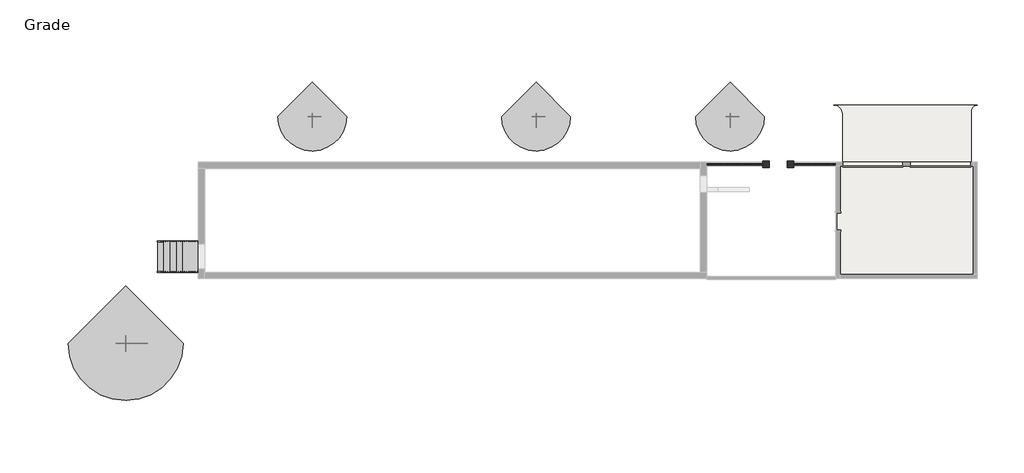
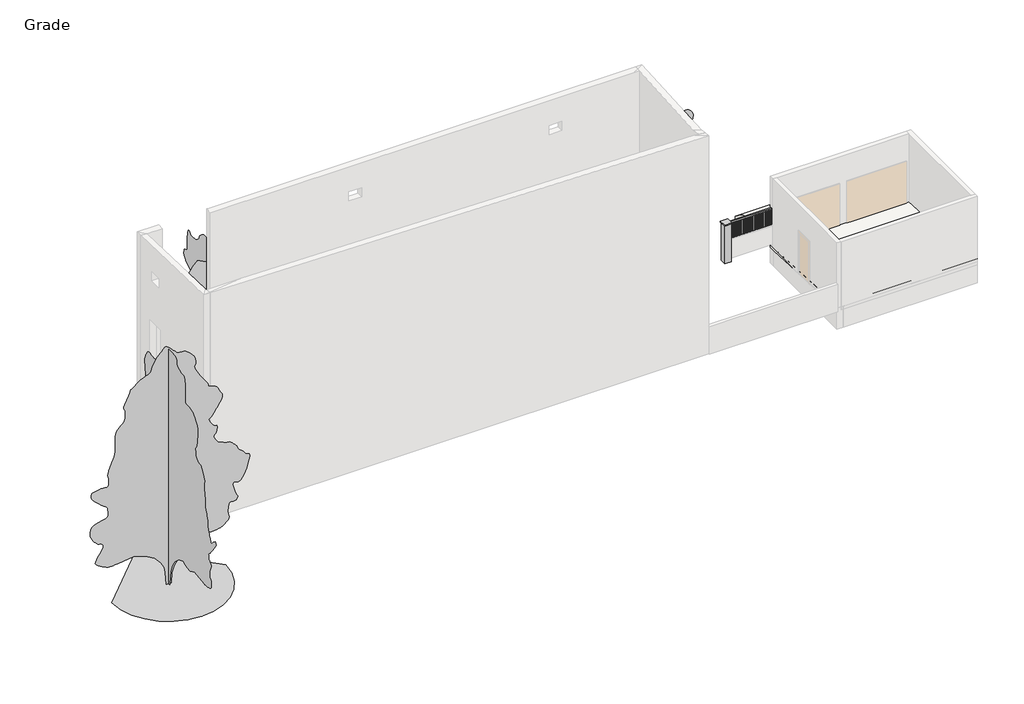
# One storey, part 2 of 2: 4 geographic elements, 4 railings, 2 columns, 2 slabs, 1 proxy, 1 stair flight.
"""IFC4 building model written with IfcOpenShell, lengths in millimetres."""

from ifc_helpers import new_model, si_unit, frame, origin, place, context, project, spatial, polyline, ellipse_curve, outline, extrude, faceted_brep, transform, mapped, element, save
from ifc_brep_helpers import plane_surface, revolved_surface, advanced_brep
from components import stair_panel_stair_panel_f019767a, rpc_tree_deciduous_honey_locust_25_cc46a1f1, rpc_tree_deciduous_lombardy_poplar_40_01077960, wooden_fence_5f6a634e, wooden_fence_12f1ab6c

model = new_model("IFC4")

# Units and contexts
model_context = context("Model", 3, world=origin())
ifc_project = project(units=[si_unit("LENGTHUNIT", "METRE", prefix="MILLI")], contexts=[model_context])

# Site, building, storey
site = spatial("IfcSite", under=ifc_project)
building = spatial("IfcBuilding", under=site)
storey = spatial("IfcBuildingStorey", under=building, Name="Grade", Elevation=-1117.6)

# Proxy
placement = place(None, origin())
stair_panel_stair_panel_shape = stair_panel_stair_panel_f019767a(model_context)
element("IfcBuildingElementProxy", 1, Name="Stair panel : Stair panel", ObjectType="Stair panel : Stair panel", at=placement, inside=storey, context=model_context, shape_type="MappedRepresentation", body=[
    mapped(stair_panel_stair_panel_shape, transform((0.0, 0.0, 0.0), x_axis=(1.0, 0.0, 0.0), y_axis=(0.0, 1.0, 0.0), z_axis=(0.0, 0.0, 1.0))),
])

# Columns
element("IfcColumn", 2, ObjectType="Pillar : Pillar", at=placement, inside=storey, context=model_context, shape_type="SweptSolid", body=[
    extrude(outline(polyline([(7176.9464708, 3586.1935985), (7176.9464708, 3230.5935985), (6821.3464708, 3230.5935985), (6821.3464708, 3586.1935985), (7176.9464708, 3586.1935985)])), frame((0.0, 0.0, 835.025), z_axis=(0.0, 0.0, 1.0), x_axis=(1.0, 0.0, 0.0)), (0.0, 0.0, 1.0), 50.8),
    extrude(outline(polyline([(7151.5464708, 3560.7935985), (7151.5464708, 3255.9935985), (6846.7464708, 3255.9935985), (6846.7464708, 3560.7935985), (7151.5464708, 3560.7935985)])), frame((0.0, 0.0, -1117.6), z_axis=(0.0, 0.0, 1.0), x_axis=(1.0, 0.0, 0.0)), (0.0, 0.0, 1.0), 1952.625),
])
element("IfcColumn", 3, ObjectType="Pillar : Pillar", at=placement, inside=storey, context=model_context, shape_type="SweptSolid", body=[
    extrude(outline(polyline([(8353.2839708, 3586.1935985), (8353.2839708, 3230.5935985), (7997.6839708, 3230.5935985), (7997.6839708, 3586.1935985), (8353.2839708, 3586.1935985)])), frame((0.0, 0.0, 835.025), z_axis=(0.0, 0.0, 1.0), x_axis=(1.0, 0.0, 0.0)), (0.0, 0.0, 1.0), 50.8),
    extrude(outline(polyline([(8327.8839708, 3560.7935985), (8327.8839708, 3255.9935985), (8023.0839708, 3255.9935985), (8023.0839708, 3560.7935985), (8327.8839708, 3560.7935985)])), frame((0.0, 0.0, -1117.6), z_axis=(0.0, 0.0, 1.0), x_axis=(1.0, 0.0, 0.0)), (0.0, 0.0, 1.0), 1952.625),
])

# Geographic elements
rpc_tree_deciduous_honey_locust_25_shape = rpc_tree_deciduous_honey_locust_25_cc46a1f1(model_context)
element("IfcGeographicElement", 4, ObjectType="RPC Tree - Deciduous : Honey Locust - 25'", at=placement, inside=storey, context=model_context, shape_type="MappedRepresentation", body=[
    mapped(rpc_tree_deciduous_honey_locust_25_shape, transform((5271.3310905, 5709.9205522, -1219.2), x_axis=(1.0, 0.0, 0.0), y_axis=(0.0, 1.0, 0.0), z_axis=(0.0, 0.0, 1.0))),
])
element("IfcGeographicElement", 5, ObjectType="RPC Tree - Deciduous : Honey Locust - 25'", at=placement, inside=storey, context=model_context, shape_type="MappedRepresentation", body=[
    mapped(rpc_tree_deciduous_honey_locust_25_shape, transform((-4067.9452542, 5709.9205522, -1219.2), x_axis=(1.0, 0.0, 0.0), y_axis=(0.0, 1.0, 0.0), z_axis=(0.0, 0.0, 1.0))),
])
element("IfcGeographicElement", 6, ObjectType="RPC Tree - Deciduous : Honey Locust - 25'", at=placement, inside=storey, context=model_context, shape_type="MappedRepresentation", body=[
    mapped(rpc_tree_deciduous_honey_locust_25_shape, transform((-14845.4689095, 5709.9205522, -1219.2), x_axis=(1.0, 0.0, 0.0), y_axis=(0.0, 1.0, 0.0), z_axis=(0.0, 0.0, 1.0))),
])
rpc_tree_deciduous_lombardy_poplar_40_shape = rpc_tree_deciduous_lombardy_poplar_40_01077960(model_context)
element("IfcGeographicElement", 7, ObjectType="RPC Tree - Deciduous : Lombardy Poplar - 40'", at=placement, inside=storey, context=model_context, shape_type="MappedRepresentation", body=[
    mapped(rpc_tree_deciduous_lombardy_poplar_40_shape, transform((-23823.7535292, -5214.9064015, -1219.2), x_axis=(1.0, 0.0, 0.0), y_axis=(0.0, 1.0, 0.0), z_axis=(0.0, 0.0, 1.0))),
])

# Railings
element("IfcRailing", 8, ObjectType="Handrail - Rectangular", at=placement, inside=storey, context=model_context, shape_type="SolidModel", body=[
    faceted_brep([(-22304.5160292, -1757.3314015, -16.9333333), (-22304.5160292, -1757.3314015, -76.4681763), (-22304.5160292, -1808.1314015, -76.4681763), (-22304.5160292, -1808.1314015, -16.9333333), (-20780.5160292, -1757.3314015, 914.4), (-20766.2226497, -1757.3314015, 863.6), (-20766.2226497, -1808.1314015, 863.6), (-20780.5160292, -1808.1314015, 914.4), (-20318.5535292, -1757.3314015, 914.4), (-20318.5535292, -1808.1314015, 914.4), (-20318.5535292, -1808.1314015, 863.6), (-20318.5535292, -1757.3314015, 863.6)], [[[0, 1, 2, 3]], [[1, 0, 4, 5]], [[2, 1, 5, 6]], [[3, 2, 6, 7]], [[0, 3, 7, 4]], [[8, 9, 10, 11]], [[5, 4, 8, 11]], [[6, 5, 11, 10]], [[7, 6, 10, 9]], [[4, 7, 9, 8]]]),
    extrude(outline(polyline([(-20383.6410292, -1792.2564015), (-20383.6410292, -1773.2064015), (-20364.5910292, -1773.2064015), (-20364.5910292, -1792.2564015), (-20383.6410292, -1792.2564015)])), frame((0.0, 0.0, -186.2666667), z_axis=(0.0, 0.0, 1.0), x_axis=(1.0, 0.0, 0.0)), (0.0, 0.0, 1.0), 1049.8666667),
    extrude(outline(polyline([(-20485.2410292, -1792.2564015), (-20485.2410292, -1773.2064015), (-20466.1910292, -1773.2064015), (-20466.1910292, -1792.2564015), (-20485.2410292, -1792.2564015)])), frame((0.0, 0.0, -186.2666667), z_axis=(0.0, 0.0, 1.0), x_axis=(1.0, 0.0, 0.0)), (0.0, 0.0, 1.0), 1049.8666667),
    extrude(outline(polyline([(-20586.8410292, -1792.2564015), (-20586.8410292, -1773.2064015), (-20567.7910292, -1773.2064015), (-20567.7910292, -1792.2564015), (-20586.8410292, -1792.2564015)])), frame((0.0, 0.0, -186.2666667), z_axis=(0.0, 0.0, 1.0), x_axis=(1.0, 0.0, 0.0)), (0.0, 0.0, 1.0), 1049.8666667),
    extrude(outline(polyline([(-20688.4410292, -1792.2564015), (-20688.4410292, -1773.2064015), (-20669.3910292, -1773.2064015), (-20669.3910292, -1792.2564015), (-20688.4410292, -1792.2564015)])), frame((0.0, 0.0, -186.2666667), z_axis=(0.0, 0.0, 1.0), x_axis=(1.0, 0.0, 0.0)), (0.0, 0.0, 1.0), 1049.8666667),
    extrude(outline(polyline([(798.5971014, -20872.5910292), (786.9554348, -20891.6410292), (-186.2666667, -20891.6410292), (-186.2666667, -20872.5910292), (798.5971014, -20872.5910292)])), frame((0.0, -1792.2564015, 0.0), z_axis=(0.0, 1.0, 0.0), x_axis=(0.0, 0.0, 1.0)), (0.0, 0.0, 1.0), 19.05),
    extrude(outline(polyline([(736.5082126, -20974.1910292), (724.8665459, -20993.2410292), (-186.2666667, -20993.2410292), (-186.2666667, -20974.1910292), (736.5082126, -20974.1910292)])), frame((0.0, -1792.2564015, 0.0), z_axis=(0.0, 1.0, 0.0), x_axis=(0.0, 0.0, 1.0)), (0.0, 0.0, 1.0), 19.05),
    extrude(outline(polyline([(674.4193237, -21075.7910292), (662.777657, -21094.8410292), (-186.2666667, -21094.8410292), (-186.2666667, -21075.7910292), (674.4193237, -21075.7910292)])), frame((0.0, -1792.2564015, 0.0), z_axis=(0.0, 1.0, 0.0), x_axis=(0.0, 0.0, 1.0)), (0.0, 0.0, 1.0), 19.05),
    extrude(outline(polyline([(612.3304348, -21177.3910292), (600.6887681, -21196.4410292), (-372.5333333, -21196.4410292), (-372.5333333, -21177.3910292), (612.3304348, -21177.3910292)])), frame((0.0, -1792.2564015, 0.0), z_axis=(0.0, 1.0, 0.0), x_axis=(0.0, 0.0, 1.0)), (0.0, 0.0, 1.0), 19.05),
    extrude(outline(polyline([(550.2415459, -21278.9910292), (538.5998792, -21298.0410292), (-372.5333333, -21298.0410292), (-372.5333333, -21278.9910292), (550.2415459, -21278.9910292)])), frame((0.0, -1792.2564015, 0.0), z_axis=(0.0, 1.0, 0.0), x_axis=(0.0, 0.0, 1.0)), (0.0, 0.0, 1.0), 19.05),
    extrude(outline(polyline([(488.152657, -21380.5910292), (476.5109903, -21399.6410292), (-372.5333333, -21399.6410292), (-372.5333333, -21380.5910292), (488.152657, -21380.5910292)])), frame((0.0, -1792.2564015, 0.0), z_axis=(0.0, 1.0, 0.0), x_axis=(0.0, 0.0, 1.0)), (0.0, 0.0, 1.0), 19.05),
    extrude(outline(polyline([(426.0637681, -21482.1910292), (414.4221014, -21501.2410292), (-558.8, -21501.2410292), (-558.8, -21482.1910292), (426.0637681, -21482.1910292)])), frame((0.0, -1792.2564015, 0.0), z_axis=(0.0, 1.0, 0.0), x_axis=(0.0, 0.0, 1.0)), (0.0, 0.0, 1.0), 19.05),
    extrude(outline(polyline([(363.9748792, -21583.7910292), (352.3332126, -21602.8410292), (-558.8, -21602.8410292), (-558.8, -21583.7910292), (363.9748792, -21583.7910292)])), frame((0.0, -1792.2564015, 0.0), z_axis=(0.0, 1.0, 0.0), x_axis=(0.0, 0.0, 1.0)), (0.0, 0.0, 1.0), 19.05),
    extrude(outline(polyline([(301.8859903, -21685.3910292), (290.2443237, -21704.4410292), (-558.8, -21704.4410292), (-558.8, -21685.3910292), (301.8859903, -21685.3910292)])), frame((0.0, -1792.2564015, 0.0), z_axis=(0.0, 1.0, 0.0), x_axis=(0.0, 0.0, 1.0)), (0.0, 0.0, 1.0), 19.05),
    extrude(outline(polyline([(239.7971014, -21786.9910292), (228.1554348, -21806.0410292), (-745.0666667, -21806.0410292), (-745.0666667, -21786.9910292), (239.7971014, -21786.9910292)])), frame((0.0, -1792.2564015, 0.0), z_axis=(0.0, 1.0, 0.0), x_axis=(0.0, 0.0, 1.0)), (0.0, 0.0, 1.0), 19.05),
    extrude(outline(polyline([(177.7082126, -21888.5910292), (166.0665459, -21907.6410292), (-745.0666667, -21907.6410292), (-745.0666667, -21888.5910292), (177.7082126, -21888.5910292)])), frame((0.0, -1792.2564015, 0.0), z_axis=(0.0, 1.0, 0.0), x_axis=(0.0, 0.0, 1.0)), (0.0, 0.0, 1.0), 19.05),
    extrude(outline(polyline([(115.6193237, -21990.1910292), (103.977657, -22009.2410292), (-745.0666667, -22009.2410292), (-745.0666667, -21990.1910292), (115.6193237, -21990.1910292)])), frame((0.0, -1792.2564015, 0.0), z_axis=(0.0, 1.0, 0.0), x_axis=(0.0, 0.0, 1.0)), (0.0, 0.0, 1.0), 19.05),
    extrude(outline(polyline([(53.5304348, -22091.7910292), (41.8887681, -22110.8410292), (-931.3333333, -22110.8410292), (-931.3333333, -22091.7910292), (53.5304348, -22091.7910292)])), frame((0.0, -1792.2564015, 0.0), z_axis=(0.0, 1.0, 0.0), x_axis=(0.0, 0.0, 1.0)), (0.0, 0.0, 1.0), 19.05),
    extrude(outline(polyline([(-8.5584541, -22193.3910292), (-20.2001208, -22212.4410292), (-931.3333333, -22212.4410292), (-931.3333333, -22193.3910292), (-8.5584541, -22193.3910292)])), frame((0.0, -1792.2564015, 0.0), z_axis=(0.0, 1.0, 0.0), x_axis=(0.0, 0.0, 1.0)), (0.0, 0.0, 1.0), 19.05),
    extrude(outline(polyline([(860.6859903, -20770.9910292), (849.0443237, -20790.0410292), (-186.2666667, -20790.0410292), (-186.2666667, -20770.9910292), (860.6859903, -20770.9910292)])), frame((0.0, -1792.2564015, 0.0), z_axis=(0.0, 1.0, 0.0), x_axis=(0.0, 0.0, 1.0)), (0.0, 0.0, 1.0), 19.05),
    extrude(outline(polyline([(-20337.6035292, -1792.2564015), (-20337.6035292, -1773.2064015), (-20318.5535292, -1773.2064015), (-20318.5535292, -1792.2564015), (-20337.6035292, -1792.2564015)])), frame((0.0, 0.0, -186.2666667), z_axis=(0.0, 0.0, 1.0), x_axis=(1.0, 0.0, 0.0)), (0.0, 0.0, 1.0), 1049.8666667),
    extrude(outline(polyline([(-64.8265097, -22285.4660292), (-76.4681763, -22304.5160292), (-931.3333333, -22304.5160292), (-931.3333333, -22285.4660292), (-64.8265097, -22285.4660292)])), frame((0.0, -1792.2564015, 0.0), z_axis=(0.0, 1.0, 0.0), x_axis=(0.0, 0.0, 1.0)), (0.0, 0.0, 1.0), 19.05),
])
element("IfcRailing", 9, ObjectType="Handrail - Rectangular", at=placement, inside=storey, context=model_context, shape_type="SolidModel", body=[
    faceted_brep([(-22304.5160292, -284.1314015, -16.9333333), (-22304.5160292, -284.1314015, -76.4681763), (-22304.5160292, -334.9314015, -76.4681763), (-22304.5160292, -334.9314015, -16.9333333), (-20780.5160292, -284.1314015, 914.4), (-20766.2226497, -284.1314015, 863.6), (-20766.2226497, -334.9314015, 863.6), (-20780.5160292, -334.9314015, 914.4), (-20318.5535292, -284.1314015, 914.4), (-20318.5535292, -334.9314015, 914.4), (-20318.5535292, -334.9314015, 863.6), (-20318.5535292, -284.1314015, 863.6)], [[[0, 1, 2, 3]], [[1, 0, 4, 5]], [[2, 1, 5, 6]], [[3, 2, 6, 7]], [[0, 3, 7, 4]], [[8, 9, 10, 11]], [[5, 4, 8, 11]], [[6, 5, 11, 10]], [[7, 6, 10, 9]], [[4, 7, 9, 8]]]),
    extrude(outline(polyline([(-20383.6410292, -300.0064015), (-20364.5910292, -300.0064015), (-20364.5910292, -319.0564015), (-20383.6410292, -319.0564015), (-20383.6410292, -300.0064015)])), frame((0.0, 0.0, -186.2666667), z_axis=(0.0, 0.0, 1.0), x_axis=(1.0, 0.0, 0.0)), (0.0, 0.0, 1.0), 1049.8666667),
    extrude(outline(polyline([(-20485.2410292, -300.0064015), (-20466.1910292, -300.0064015), (-20466.1910292, -319.0564015), (-20485.2410292, -319.0564015), (-20485.2410292, -300.0064015)])), frame((0.0, 0.0, -186.2666667), z_axis=(0.0, 0.0, 1.0), x_axis=(1.0, 0.0, 0.0)), (0.0, 0.0, 1.0), 1049.8666667),
    extrude(outline(polyline([(-20586.8410292, -300.0064015), (-20567.7910292, -300.0064015), (-20567.7910292, -319.0564015), (-20586.8410292, -319.0564015), (-20586.8410292, -300.0064015)])), frame((0.0, 0.0, -186.2666667), z_axis=(0.0, 0.0, 1.0), x_axis=(1.0, 0.0, 0.0)), (0.0, 0.0, 1.0), 1049.8666667),
    extrude(outline(polyline([(-20688.4410292, -300.0064015), (-20669.3910292, -300.0064015), (-20669.3910292, -319.0564015), (-20688.4410292, -319.0564015), (-20688.4410292, -300.0064015)])), frame((0.0, 0.0, -186.2666667), z_axis=(0.0, 0.0, 1.0), x_axis=(1.0, 0.0, 0.0)), (0.0, 0.0, 1.0), 1049.8666667),
    extrude(outline(polyline([(786.9554348, -20891.6410292), (-186.2666667, -20891.6410292), (-186.2666667, -20872.5910292), (798.5971014, -20872.5910292), (786.9554348, -20891.6410292)])), frame((0.0, -319.0564015, 0.0), z_axis=(0.0, 1.0, 0.0), x_axis=(0.0, 0.0, 1.0)), (0.0, 0.0, 1.0), 19.05),
    extrude(outline(polyline([(724.8665459, -20993.2410292), (-186.2666667, -20993.2410292), (-186.2666667, -20974.1910292), (736.5082126, -20974.1910292), (724.8665459, -20993.2410292)])), frame((0.0, -319.0564015, 0.0), z_axis=(0.0, 1.0, 0.0), x_axis=(0.0, 0.0, 1.0)), (0.0, 0.0, 1.0), 19.05),
    extrude(outline(polyline([(662.777657, -21094.8410292), (-186.2666667, -21094.8410292), (-186.2666667, -21075.7910292), (674.4193237, -21075.7910292), (662.777657, -21094.8410292)])), frame((0.0, -319.0564015, 0.0), z_axis=(0.0, 1.0, 0.0), x_axis=(0.0, 0.0, 1.0)), (0.0, 0.0, 1.0), 19.05),
    extrude(outline(polyline([(600.6887681, -21196.4410292), (-372.5333333, -21196.4410292), (-372.5333333, -21177.3910292), (612.3304348, -21177.3910292), (600.6887681, -21196.4410292)])), frame((0.0, -319.0564015, 0.0), z_axis=(0.0, 1.0, 0.0), x_axis=(0.0, 0.0, 1.0)), (0.0, 0.0, 1.0), 19.05),
    extrude(outline(polyline([(538.5998792, -21298.0410292), (-372.5333333, -21298.0410292), (-372.5333333, -21278.9910292), (550.2415459, -21278.9910292), (538.5998792, -21298.0410292)])), frame((0.0, -319.0564015, 0.0), z_axis=(0.0, 1.0, 0.0), x_axis=(0.0, 0.0, 1.0)), (0.0, 0.0, 1.0), 19.05),
    extrude(outline(polyline([(476.5109903, -21399.6410292), (-372.5333333, -21399.6410292), (-372.5333333, -21380.5910292), (488.152657, -21380.5910292), (476.5109903, -21399.6410292)])), frame((0.0, -319.0564015, 0.0), z_axis=(0.0, 1.0, 0.0), x_axis=(0.0, 0.0, 1.0)), (0.0, 0.0, 1.0), 19.05),
    extrude(outline(polyline([(414.4221014, -21501.2410292), (-558.8, -21501.2410292), (-558.8, -21482.1910292), (426.0637681, -21482.1910292), (414.4221014, -21501.2410292)])), frame((0.0, -319.0564015, 0.0), z_axis=(0.0, 1.0, 0.0), x_axis=(0.0, 0.0, 1.0)), (0.0, 0.0, 1.0), 19.05),
    extrude(outline(polyline([(352.3332126, -21602.8410292), (-558.8, -21602.8410292), (-558.8, -21583.7910292), (363.9748792, -21583.7910292), (352.3332126, -21602.8410292)])), frame((0.0, -319.0564015, 0.0), z_axis=(0.0, 1.0, 0.0), x_axis=(0.0, 0.0, 1.0)), (0.0, 0.0, 1.0), 19.05),
    extrude(outline(polyline([(290.2443237, -21704.4410292), (-558.8, -21704.4410292), (-558.8, -21685.3910292), (301.8859903, -21685.3910292), (290.2443237, -21704.4410292)])), frame((0.0, -319.0564015, 0.0), z_axis=(0.0, 1.0, 0.0), x_axis=(0.0, 0.0, 1.0)), (0.0, 0.0, 1.0), 19.05),
    extrude(outline(polyline([(228.1554348, -21806.0410292), (-745.0666667, -21806.0410292), (-745.0666667, -21786.9910292), (239.7971014, -21786.9910292), (228.1554348, -21806.0410292)])), frame((0.0, -319.0564015, 0.0), z_axis=(0.0, 1.0, 0.0), x_axis=(0.0, 0.0, 1.0)), (0.0, 0.0, 1.0), 19.05),
    extrude(outline(polyline([(166.0665459, -21907.6410292), (-745.0666667, -21907.6410292), (-745.0666667, -21888.5910292), (177.7082126, -21888.5910292), (166.0665459, -21907.6410292)])), frame((0.0, -319.0564015, 0.0), z_axis=(0.0, 1.0, 0.0), x_axis=(0.0, 0.0, 1.0)), (0.0, 0.0, 1.0), 19.05),
    extrude(outline(polyline([(103.977657, -22009.2410292), (-745.0666667, -22009.2410292), (-745.0666667, -21990.1910292), (115.6193237, -21990.1910292), (103.977657, -22009.2410292)])), frame((0.0, -319.0564015, 0.0), z_axis=(0.0, 1.0, 0.0), x_axis=(0.0, 0.0, 1.0)), (0.0, 0.0, 1.0), 19.05),
    extrude(outline(polyline([(41.8887681, -22110.8410292), (-931.3333333, -22110.8410292), (-931.3333333, -22091.7910292), (53.5304348, -22091.7910292), (41.8887681, -22110.8410292)])), frame((0.0, -319.0564015, 0.0), z_axis=(0.0, 1.0, 0.0), x_axis=(0.0, 0.0, 1.0)), (0.0, 0.0, 1.0), 19.05),
    extrude(outline(polyline([(-20.2001208, -22212.4410292), (-931.3333333, -22212.4410292), (-931.3333333, -22193.3910292), (-8.5584541, -22193.3910292), (-20.2001208, -22212.4410292)])), frame((0.0, -319.0564015, 0.0), z_axis=(0.0, 1.0, 0.0), x_axis=(0.0, 0.0, 1.0)), (0.0, 0.0, 1.0), 19.05),
    extrude(outline(polyline([(849.0443237, -20790.0410292), (-186.2666667, -20790.0410292), (-186.2666667, -20770.9910292), (860.6859903, -20770.9910292), (849.0443237, -20790.0410292)])), frame((0.0, -319.0564015, 0.0), z_axis=(0.0, 1.0, 0.0), x_axis=(0.0, 0.0, 1.0)), (0.0, 0.0, 1.0), 19.05),
    extrude(outline(polyline([(-20337.6035292, -300.0064015), (-20318.5535292, -300.0064015), (-20318.5535292, -319.0564015), (-20337.6035292, -319.0564015), (-20337.6035292, -300.0064015)])), frame((0.0, 0.0, -186.2666667), z_axis=(0.0, 0.0, 1.0), x_axis=(1.0, 0.0, 0.0)), (0.0, 0.0, 1.0), 1049.8666667),
    extrude(outline(polyline([(-76.4681763, -22304.5160292), (-931.3333333, -22304.5160292), (-931.3333333, -22285.4660292), (-64.8265097, -22285.4660292), (-76.4681763, -22304.5160292)])), frame((0.0, -319.0564015, 0.0), z_axis=(0.0, 1.0, 0.0), x_axis=(0.0, 0.0, 1.0)), (0.0, 0.0, 1.0), 19.05),
])
wooden_fence_shape = wooden_fence_5f6a634e(model_context)
element("IfcRailing", 10, ObjectType="Wooden Fence", at=placement, inside=storey, context=model_context, shape_type="MappedRepresentation", body=[
    mapped(wooden_fence_shape, transform((0.0, 0.0, 0.0), x_axis=(1.0, 0.0, 0.0), y_axis=(0.0, 1.0, 0.0), z_axis=(0.0, 0.0, 1.0))),
])
wooden_fence_2_shape = wooden_fence_12f1ab6c(model_context)
element("IfcRailing", 11, ObjectType="Wooden Fence", at=placement, inside=storey, context=model_context, shape_type="MappedRepresentation", body=[
    mapped(wooden_fence_2_shape, transform((0.0, 0.0, 0.0), x_axis=(1.0, 0.0, 0.0), y_axis=(0.0, 1.0, 0.0), z_axis=(0.0, 0.0, 1.0))),
])

# Slabs
element("IfcSlab", 12, ObjectType="Generic - 6\"", at=placement, inside=storey, context=model_context, shape_type="SweptSolid", body=[
    extrude(outline(polyline([(3509.9935985, -1270.2416652), (-2103.4064015, -953.9937778), (-2103.4064015, -801.3521127), (3509.9935985, -1117.6), (3509.9935985, -1270.2416652)])), frame((10364.6464708, 0.0, 0.0), z_axis=(1.0, 0.0, 0.0), x_axis=(0.0, 1.0, 0.0)), (0.0, 0.0, 1.0), 6807.2),
])
element("IfcSlab", 13, ObjectType="Generic - 6\"", at=placement, inside=storey, context=model_context, shape_type="AdvancedBrep", body=[
    advanced_brep(
    [(17181.3714708, 6253.1935985, -1422.6037283), (16876.5714708, 5948.3935985, -1406.838211), (16876.5714708, 3306.7935985, -1270.2037283), (10688.4964708, 3306.7935985, -1270.2037283), (10688.4964708, 5821.3935985, -1400.2692455), (10256.6964708, 6253.1935985, -1422.6037283), (17181.3714708, 6253.1935985, -1270.0), (10256.6964708, 6253.1935985, -1270.0), (10688.4964708, 5821.3935985, -1247.6655172), (10688.4964708, 3306.7935985, -1117.6), (16876.5714708, 3306.7935985, -1117.6), (16876.5714708, 5948.3935985, -1254.2344828)],
    [
        (0, 1, ellipse_curve(frame((17181.3714708, 5948.3935985, -1406.838211), z_axis=(0.0, 0.05165508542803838, 0.9986649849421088), x_axis=(0.0, -0.9986649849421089, 0.0516550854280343)), 305.2074566, 304.8)),
        (1, 2),
        (2, 3),
        (3, 4),
        (4, 5, ellipse_curve(frame((10256.6964708, 5821.3935985, -1400.2692455), z_axis=(0.0, 0.05165508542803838, 0.9986649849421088), x_axis=(0.0, -0.9986649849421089, 0.0516550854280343)), 432.3772301, 431.8)),
        (5, 0),
        (6, 7),
        (7, 8, ellipse_curve(frame((10256.6964708, 5821.3935985, -1247.6655172), z_axis=(0.0, -0.05165508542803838, -0.9986649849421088), x_axis=(0.0, -0.9986649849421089, 0.0516550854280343)), 432.3772301, 431.8)),
        (8, 9),
        (9, 10),
        (10, 11),
        (11, 6, ellipse_curve(frame((17181.3714708, 5948.3935985, -1254.2344828), z_axis=(0.0, -0.05165508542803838, -0.9986649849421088), x_axis=(0.0, -0.9986649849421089, 0.0516550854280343)), 305.2074566, 304.8)),
        (0, 6),
        (11, 1),
        (10, 2),
        (9, 3),
        (8, 4),
        (7, 5),
    ],
    [
        plane_surface(frame((13400.7402208, 3306.7935985, -1270.2037283), z_axis=(0.0, -0.05165508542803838, -0.9986649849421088), x_axis=(0.0, 0.9986649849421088, -0.05165508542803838))),
        plane_surface(frame((13400.7402208, 3306.7935985, -1117.6), z_axis=(0.0, 0.05165508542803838, 0.9986649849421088), x_axis=(0.0, -0.9986649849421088, 0.05165508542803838))),
        revolved_surface(polyline([(17486.1714708, 5948.3935985, -1238.468965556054), (17486.1714708, 5948.3935985, -1422.6037283)]), (17181.3714708, 5948.3935985, -1117.6), (0.0, 0.0, 1.0)),
        plane_surface(frame((16876.5714708, 5948.3935985, -1406.838211), z_axis=(1.0, 0.0, 0.0), x_axis=(0.0, 0.0, 1.0))),
        plane_surface(frame((16876.5714708, 3306.7935985, -1270.2037283), z_axis=(0.0, -1.0, 0.0), x_axis=(0.0, 0.0, 1.0))),
        plane_surface(frame((10688.4964708, 3306.7935985, -1270.2037283), z_axis=(-1.0, 0.0, 0.0), x_axis=(0.0, 0.0, 1.0))),
        revolved_surface(polyline([(10688.496470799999, 5821.3935985, -1225.3310344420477), (10688.496470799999, 5821.3935985, -1422.6037283)]), (10256.6964708, 5821.3935985, -1117.6), (0.0, 0.0, 1.0)),
        plane_surface(frame((10256.6964708, 6253.1935985, -1422.6037283), z_axis=(0.0, 1.0, 0.0), x_axis=(0.0, 0.0, 1.0))),
    ],
    [
        (0, [[1, 2, 3, 4, 5, 6]]),
        (1, [[7, 8, 9, 10, 11, 12]]),
        (2, [[-1, 13, -12, 14]]),
        (3, [[-2, -14, -11, 15]]),
        (4, [[-3, -15, -10, 16]]),
        (5, [[-4, -16, -9, 17]]),
        (6, [[-5, -17, -8, 18]]),
        (7, [[-6, -18, -7, -13]]),
    ],
),
])

# Stair flight
element("IfcStairFlight", 14, ObjectType="3/4\" Nosing (1)", at=placement, inside=storey, context=model_context, shape_type="Brep", body=[
    faceted_brep([(-21980.6660292, -284.1314015, -931.3333333), (-22285.4660292, -284.1314015, -931.3333333), (-22285.4660292, -1808.1314015, -931.3333333), (-21980.6660292, -1808.1314015, -931.3333333), (-21980.6660292, -284.1314015, -1005.7518871), (-22163.690214, -284.1314015, -1117.6), (-22285.4660292, -284.1314015, -1117.6), (-22285.4660292, -1808.1314015, -1117.6), (-22163.690214, -1808.1314015, -1117.6), (-21980.6660292, -1808.1314015, -1005.7518871), (-21675.8660292, -284.1314015, -745.0666667), (-21980.6660292, -284.1314015, -745.0666667), (-21980.6660292, -1808.1314015, -745.0666667), (-21675.8660292, -1808.1314015, -745.0666667), (-21675.8660292, -284.1314015, -819.4852204), (-21675.8660292, -1808.1314015, -819.4852204), (-21371.0660292, -284.1314015, -558.8), (-21675.8660292, -284.1314015, -558.8), (-21675.8660292, -1808.1314015, -558.8), (-21371.0660292, -1808.1314015, -558.8), (-21371.0660292, -284.1314015, -633.2185537), (-21371.0660292, -1808.1314015, -633.2185537), (-21066.2660292, -284.1314015, -372.5333333), (-21371.0660292, -284.1314015, -372.5333333), (-21371.0660292, -1808.1314015, -372.5333333), (-21066.2660292, -1808.1314015, -372.5333333), (-21066.2660292, -284.1314015, -446.9518871), (-21066.2660292, -1808.1314015, -446.9518871), (-21066.2660292, -284.1314015, -186.2666667), (-21066.2660292, -1808.1314015, -186.2666667), (-20743.5993049, -1808.1314015, -186.2666667), (-20318.5535292, -1808.1314015, -186.2666667), (-20318.5535292, -284.1314015, -186.2666667), (-20743.5993049, -284.1314015, -186.2666667), (-20318.5535292, -284.1314015, -249.7666667), (-20743.5993049, -284.1314015, -249.7666667), (-20743.5993049, -1808.1314015, -249.7666667), (-20318.5535292, -1808.1314015, -249.7666667)], [[[0, 1, 2, 3]], [[1, 0, 4, 5, 6]], [[2, 1, 6, 7]], [[3, 2, 7, 8, 9]], [[10, 11, 12, 13]], [[11, 10, 14, 4, 0]], [[0, 3, 12, 11]], [[13, 12, 3, 9, 15]], [[16, 17, 18, 19]], [[17, 16, 20, 14, 10]], [[10, 13, 18, 17]], [[19, 18, 13, 15, 21]], [[22, 23, 24, 25]], [[23, 22, 26, 20, 16]], [[16, 19, 24, 23]], [[25, 24, 19, 21, 27]], [[28, 29, 30, 31, 32, 33]], [[22, 28, 33, 32, 34, 35, 26]], [[22, 25, 29, 28]], [[29, 25, 27, 36, 37, 31, 30]], [[32, 31, 37, 34]], [[7, 6, 5, 8]], [[35, 36, 27, 21, 15, 9, 8, 5, 4, 14, 20, 26]], [[36, 35, 34, 37]]]),
])

save(model, "model.ifc")
